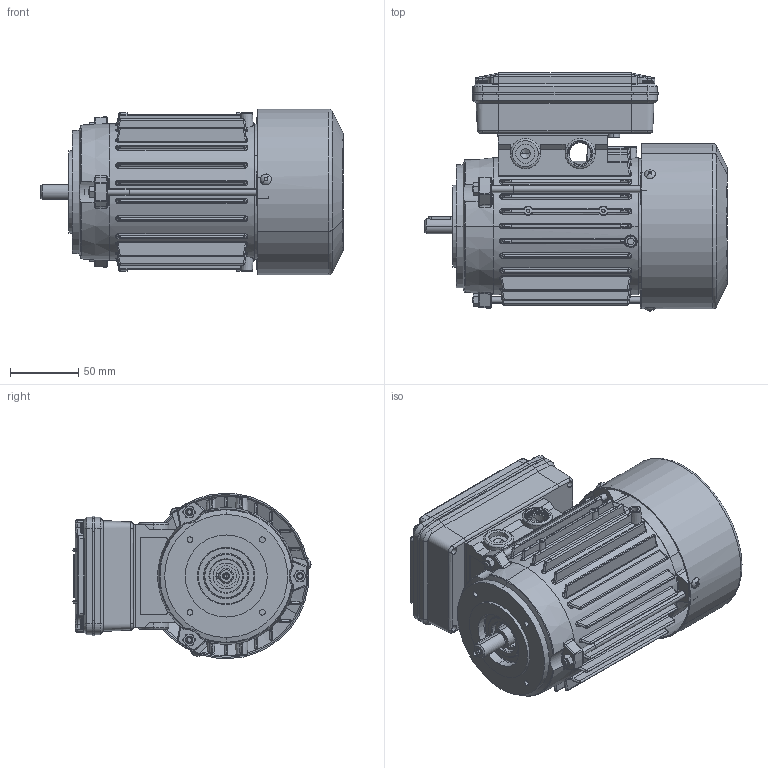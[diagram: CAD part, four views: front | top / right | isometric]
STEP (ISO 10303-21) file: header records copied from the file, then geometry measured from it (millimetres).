
FILE_DESCRIPTION (( 'STEP AP214' ), '1' );
FILE_NAME ('M24BC0011.STEP', '2018-10-25T13:06:23', ( '' ), ( '' ), 'SwSTEP 2.0', 'SolidWorks 2018', '' );
FILE_SCHEMA (( 'AUTOMOTIVE_DESIGN' ));
Length unit declared in the file: millimetre
Products named in the file (16): Scatola per Morsettiera Doppia 63-71-80; Chiavetta 63; Dado M5; Vite testa rotonda M3; Cuffia SM 63 - DAA40098; Tirante BA SM 63; Scudo Lato Comando B3 BM 63 - DAAD0194; Scudo a flangia B14 BM 63 - DAAC0194; Albero SM 63 - DAD10095; Carcassa 63 B5; M24BC0011; Scatola per Morsettiera Doppia 63-71-80 - Completa; Guarnizione Scatola Singola 63-71-80; Guarnizione Doppia Scatola gr. 63-71-80 - DBAM0094; Vite per coperchio morsettiera; Coperchio per Scatola per Morsettiera Doppia 63-71-80
Assembly tree (24 placements, depth 3):
  M24BC0011
    Carcassa 63 B5
    Albero SM 63 - DAD10095
    Scudo a flangia B14 BM 63 - DAAC0194
    Scudo Lato Comando B3 BM 63 - DAAD0194
    Tirante BA SM 63  x3
    Cuffia SM 63 - DAA40098
    Vite testa rotonda M3  x3
    Dado M5  x3
    Chiavetta 63
    Scatola per Morsettiera Doppia 63-71-80 - Completa
      Scatola per Morsettiera Doppia 63-71-80
      Coperchio per Scatola per Morsettiera Doppia 63-71-80
      Vite per coperchio morsettiera  x4
      Guarnizione Doppia Scatola gr. 63-71-80 - DBAM0094
      Guarnizione Scatola Singola 63-71-80
Bounding box: 221 x 174.01 x 120.94 mm (x, y, z)
Volume: 542628.8 mm3; surface area: 360643.2 mm2
Topology: 32 solids, 32 shells, 3464 faces, 9251 edges, 5804 vertices
Faces by surface type: plane 1186, cylinder 1085, torus 412, bspline 375, cone 294, sphere 112
Entity records: 118041 total; most frequent: CARTESIAN_POINT 43575, ORIENTED_EDGE 16372, DIRECTION 14132, EDGE_CURVE 8186, AXIS2_PLACEMENT_3D 5433, VERTEX_POINT 5200, EDGE_LOOP 3376, VECTOR 3266
